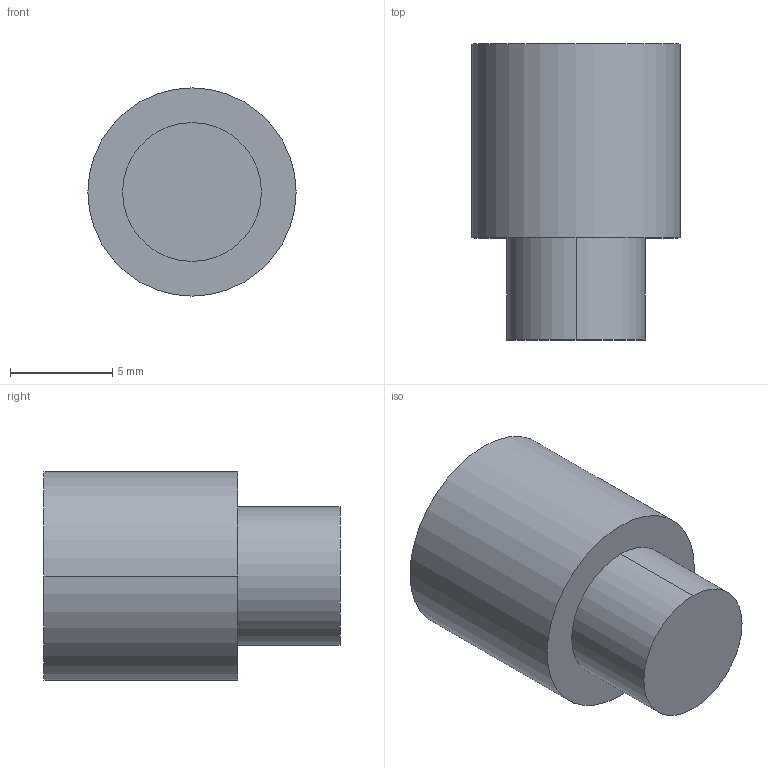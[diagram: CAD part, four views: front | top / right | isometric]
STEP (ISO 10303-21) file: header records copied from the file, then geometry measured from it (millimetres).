
FILE_DESCRIPTION((''),'2;1');
FILE_NAME('GIF0100_2','2002-12-27T',('Lipro doo'),('Lipro d.o.o.'),'PRO/ENGINEER BY PARAMETRIC TECHNOLOGY CORPORATION, 2001150','PRO/ENGINEER BY PARAMETRIC TECHNOLOGY CORPORATION, 2001150','');
FILE_SCHEMA(('CONFIG_CONTROL_DESIGN'));
Length unit declared in the file: millimetre
Products named in the file (1): GIF0100_2
Bounding box: 10.2 x 14.5 x 10.2 mm (x, y, z)
Volume: 957.9 mm3; surface area: 574.7 mm2
Topology: 1 solids, 1 shells, 7 faces, 12 edges, 8 vertices
Faces by surface type: cylinder 4, plane 3
Entity records: 212 total; most frequent: DIRECTION 34, CARTESIAN_POINT 27, ORIENTED_EDGE 24, AXIS2_PLACEMENT_3D 15, EDGE_CURVE 12, VERTEX_POINT 8, EDGE_LOOP 8, CIRCLE 8
